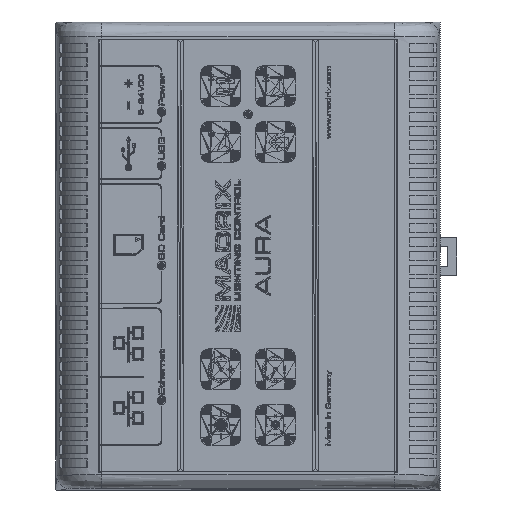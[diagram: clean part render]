
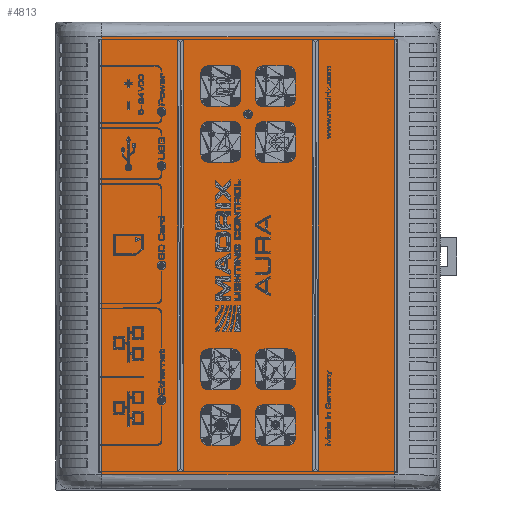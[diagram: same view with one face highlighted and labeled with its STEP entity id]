
A CAD part, top view. The second image highlights one B-rep face of the part: STEP entity #4813.
In plain terms, the highlighted planar face has unit normal (0, 0, 1).
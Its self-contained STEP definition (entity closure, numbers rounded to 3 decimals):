
#4813=ADVANCED_FACE('',(#31799),#294027,.T.);
#31799=FACE_OUTER_BOUND('',#58965,.T.);
#58965=EDGE_LOOP('',(#99097,#99098,#99099,#99100,#99101,#99102,#99103,#99104));
#99097=ORIENTED_EDGE('',*,*,#176440,.F.);
#99098=ORIENTED_EDGE('',*,*,#176974,.F.);
#99099=ORIENTED_EDGE('',*,*,#179801,.F.);
#99100=ORIENTED_EDGE('',*,*,#176976,.F.);
#99101=ORIENTED_EDGE('',*,*,#176293,.F.);
#99102=ORIENTED_EDGE('',*,*,#176315,.F.);
#99103=ORIENTED_EDGE('',*,*,#179804,.F.);
#99104=ORIENTED_EDGE('',*,*,#176317,.F.);
#176293=EDGE_CURVE('',#272412,#272413,#225643,.T.);
#176315=EDGE_CURVE('',#272432,#272412,#225665,.T.);
#176317=EDGE_CURVE('',#272435,#272436,#225667,.T.);
#176440=EDGE_CURVE('',#272555,#272435,#225728,.T.);
#176974=EDGE_CURVE('',#272912,#272555,#226262,.T.);
#176976=EDGE_CURVE('',#272413,#272913,#226264,.T.);
#179801=EDGE_CURVE('',#272913,#272912,#222015,.T.);
#179804=EDGE_CURVE('',#272436,#272432,#228590,.T.);
#222015=(
BOUNDED_CURVE()
B_SPLINE_CURVE(1,(#413186,#413187),.UNSPECIFIED.,.F.,.F.)
B_SPLINE_CURVE_WITH_KNOTS((2,2),(-97.02,0.),.UNSPECIFIED.)
CURVE()
GEOMETRIC_REPRESENTATION_ITEM()
RATIONAL_B_SPLINE_CURVE((1.,1.))
REPRESENTATION_ITEM('')
);
#225643=B_SPLINE_CURVE_WITH_KNOTS('',3,(#403341,#403342,#403343,#403344,
#403345,#403346),.UNSPECIFIED.,.F.,.F.,(4,1,1,4),(0.,18.707,46.768,
65.476),.UNSPECIFIED.);
#225665=B_SPLINE_CURVE_WITH_KNOTS('',1,(#403422,#403423),.UNSPECIFIED.,
 .F.,.F.,(2,2),(0.,0.567),.UNSPECIFIED.);
#225667=B_SPLINE_CURVE_WITH_KNOTS('',1,(#403426,#403427),.UNSPECIFIED.,
 .F.,.F.,(2,2),(0.,0.567),.UNSPECIFIED.);
#225728=B_SPLINE_CURVE_WITH_KNOTS('',3,(#403742,#403743,#403744,#403745,
#403746,#403747),.UNSPECIFIED.,.F.,.F.,(4,1,1,4),(0.,18.707,46.768,
65.476),.UNSPECIFIED.);
#226262=B_SPLINE_CURVE_WITH_KNOTS('',1,(#405786,#405787),.UNSPECIFIED.,
 .F.,.F.,(2,2),(0.,0.567),.UNSPECIFIED.);
#226264=B_SPLINE_CURVE_WITH_KNOTS('',1,(#405790,#405791),.UNSPECIFIED.,
 .F.,.F.,(2,2),(0.,0.567),.UNSPECIFIED.);
#228590=B_SPLINE_CURVE_WITH_KNOTS('',1,(#413194,#413195),.UNSPECIFIED.,
 .F.,.F.,(2,2),(0.,97.),.UNSPECIFIED.);
#272412=VERTEX_POINT('',#390256);
#272413=VERTEX_POINT('',#390257);
#272432=VERTEX_POINT('',#390276);
#272435=VERTEX_POINT('',#390279);
#272436=VERTEX_POINT('',#390280);
#272555=VERTEX_POINT('',#390399);
#272912=VERTEX_POINT('',#390756);
#272913=VERTEX_POINT('',#390757);
#294027=PLANE('',#320329);
#320329=AXIS2_PLACEMENT_3D('',#387055,#346579,$);
#346579=DIRECTION('',(0.,0.,1.));
#387055=CARTESIAN_POINT('',(-113.728,-65.545,24.335));
#390256=CARTESIAN_POINT('',(-107.181,42.424,24.335));
#390257=CARTESIAN_POINT('',(-41.705,42.424,24.335));
#390276=CARTESIAN_POINT('',(-107.181,41.858,24.335));
#390279=CARTESIAN_POINT('',(-107.181,-55.73,24.335));
#390280=CARTESIAN_POINT('',(-107.181,-55.163,24.335));
#390399=CARTESIAN_POINT('',(-41.705,-55.73,24.335));
#390756=CARTESIAN_POINT('',(-41.705,-55.163,24.335));
#390757=CARTESIAN_POINT('',(-41.705,41.858,24.335));
#403341=CARTESIAN_POINT('',(-107.181,42.424,24.335));
#403342=CARTESIAN_POINT('',(-100.934,42.424,24.335));
#403343=CARTESIAN_POINT('',(-85.365,42.424,24.335));
#403344=CARTESIAN_POINT('',(-63.52,42.424,24.335));
#403345=CARTESIAN_POINT('',(-47.952,42.424,24.335));
#403346=CARTESIAN_POINT('',(-41.705,42.424,24.335));
#403422=CARTESIAN_POINT('',(-107.181,41.858,24.335));
#403423=CARTESIAN_POINT('',(-107.181,42.424,24.335));
#403426=CARTESIAN_POINT('',(-107.181,-55.73,24.335));
#403427=CARTESIAN_POINT('',(-107.181,-55.163,24.335));
#403742=CARTESIAN_POINT('',(-41.705,-55.73,24.335));
#403743=CARTESIAN_POINT('',(-47.952,-55.729,24.335));
#403744=CARTESIAN_POINT('',(-63.52,-55.73,24.335));
#403745=CARTESIAN_POINT('',(-85.365,-55.73,24.335));
#403746=CARTESIAN_POINT('',(-100.934,-55.729,24.335));
#403747=CARTESIAN_POINT('',(-107.181,-55.73,24.335));
#405786=CARTESIAN_POINT('',(-41.705,-55.163,24.335));
#405787=CARTESIAN_POINT('',(-41.705,-55.73,24.335));
#405790=CARTESIAN_POINT('',(-41.705,42.424,24.335));
#405791=CARTESIAN_POINT('',(-41.705,41.858,24.335));
#413186=CARTESIAN_POINT('',(-41.705,41.858,24.335));
#413187=CARTESIAN_POINT('',(-41.705,-55.163,24.335));
#413194=CARTESIAN_POINT('',(-107.181,-55.163,24.335));
#413195=CARTESIAN_POINT('',(-107.181,41.858,24.335));
